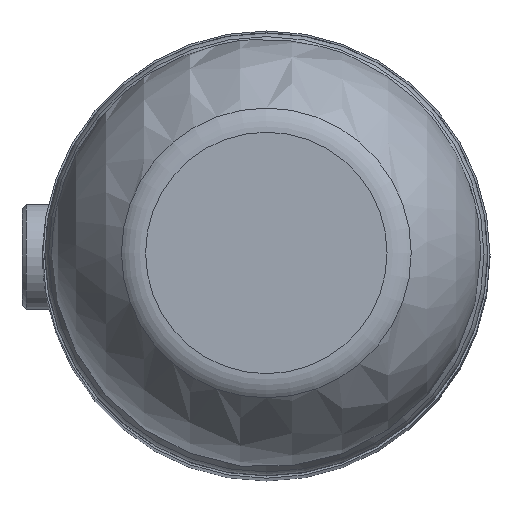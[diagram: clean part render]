
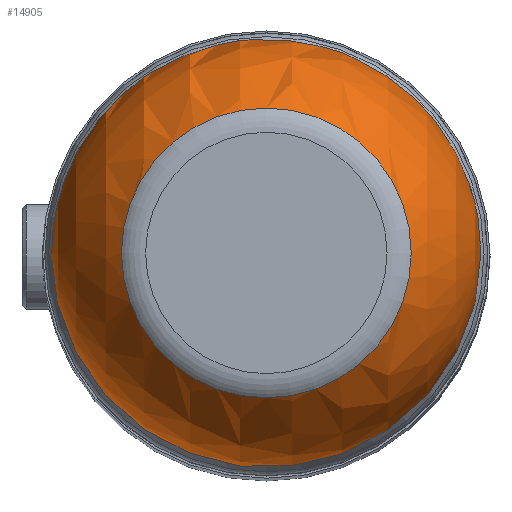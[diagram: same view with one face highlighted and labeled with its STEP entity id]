
A CAD part, top view. The second image highlights one B-rep face of the part: STEP entity #14905.
In plain terms, the highlighted spherical face has radius 12.186 mm.
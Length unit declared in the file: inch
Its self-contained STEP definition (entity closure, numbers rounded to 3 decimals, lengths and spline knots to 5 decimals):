
#425=SPHERICAL_SURFACE('',#15866,0.47975);
#3152=CIRCLE('',#15864,0.32389);
#3153=CIRCLE('',#15867,0.26399);
#3563=FACE_BOUND('',#4581,.T.);
#3564=FACE_BOUND('',#4582,.T.);
#4581=EDGE_LOOP('',(#10225));
#4582=EDGE_LOOP('',(#10226));
#6348=VERTEX_POINT('',#19782);
#6349=VERTEX_POINT('',#19786);
#7901=EDGE_CURVE('',#6348,#6348,#3152,.T.);
#7902=EDGE_CURVE('',#6349,#6349,#3153,.T.);
#10225=ORIENTED_EDGE('',*,*,#7902,.F.);
#10226=ORIENTED_EDGE('',*,*,#7901,.F.);
#14905=ADVANCED_FACE('',(#3563,#3564),#425,.T.);
#15864=AXIS2_PLACEMENT_3D('',#19783,#16799,#16800);
#15866=AXIS2_PLACEMENT_3D('',#19785,#16803,#16804);
#15867=AXIS2_PLACEMENT_3D('',#19787,#16805,#16806);
#16799=DIRECTION('center_axis',(1.,0.,0.));
#16800=DIRECTION('ref_axis',(0.,0.,-1.));
#16803=DIRECTION('center_axis',(0.,0.,1.));
#16804=DIRECTION('ref_axis',(1.,0.,0.));
#16805=DIRECTION('center_axis',(-1.,0.,0.));
#16806=DIRECTION('ref_axis',(0.,-1.,0.));
#19782=CARTESIAN_POINT('',(-0.06494,1.07816,0.32389));
#19783=CARTESIAN_POINT('Origin',(-0.06494,1.07816,0.));
#19785=CARTESIAN_POINT('Origin',(-0.41886,1.07816,0.));
#19786=CARTESIAN_POINT('',(-0.81944,1.34215,0.));
#19787=CARTESIAN_POINT('Origin',(-0.81944,1.07816,0.));
